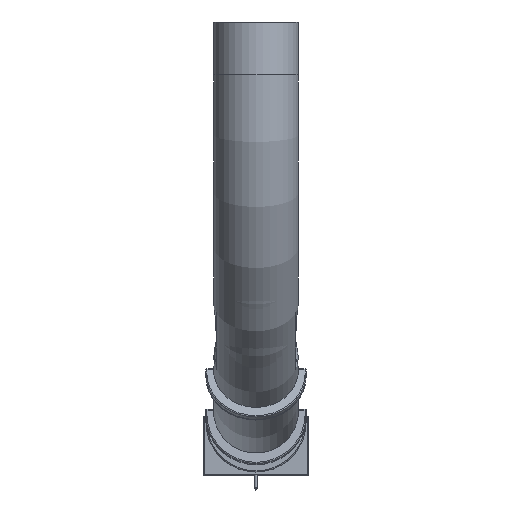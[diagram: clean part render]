
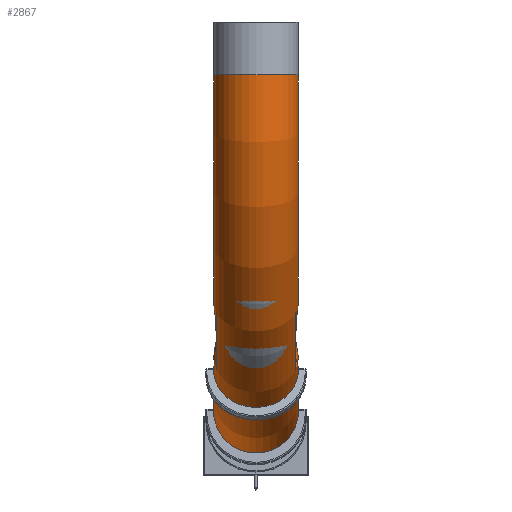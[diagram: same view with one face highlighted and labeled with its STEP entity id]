
A CAD part, top view. The second image highlights one B-rep face of the part: STEP entity #2867.
In plain terms, the highlighted toroidal (fillet/blend) face has major radius 650 mm and minor radius 80 mm.
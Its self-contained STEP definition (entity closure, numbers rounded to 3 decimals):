
#62=TOROIDAL_SURFACE('',#3220,650.,80.);
#155=B_SPLINE_CURVE_WITH_KNOTS('',3,(#4912,#4913,#4914,#4915,#4916,#4917),
 .UNSPECIFIED.,.F.,.F.,(4,2,4),(-8.412,-4.172,0.),
 .UNSPECIFIED.);
#157=B_SPLINE_CURVE_WITH_KNOTS('',3,(#4929,#4930,#4931,#4932,#4933,#4934,
#4935,#4936,#4937,#4938),.UNSPECIFIED.,.F.,.F.,(4,2,2,2,4),(71.802,
72.376,80.043,87.71,95.377),
 .UNSPECIFIED.);
#160=B_SPLINE_CURVE_WITH_KNOTS('',3,(#4998,#4999,#5000,#5001,#5002,#5003,
#5004,#5005,#5006,#5007),.UNSPECIFIED.,.F.,.F.,(4,2,2,2,4),(0.,7.667,
15.334,23.001,23.575),.UNSPECIFIED.);
#161=B_SPLINE_CURVE_WITH_KNOTS('',3,(#5010,#5011,#5012,#5013,#5014,#5015),
 .UNSPECIFIED.,.F.,.F.,(4,2,4),(-8.369,-4.192,0.),
 .UNSPECIFIED.);
#726=FACE_OUTER_BOUND('',#913,.T.);
#913=EDGE_LOOP('',(#2186,#2187,#2188,#2189,#2190,#2191,#2192,#2193,#2194,
#2195,#2196));
#1056=CIRCLE('',#3136,80.);
#1093=CIRCLE('',#3211,645.);
#1095=CIRCLE('',#3217,645.);
#1097=CIRCLE('',#3221,80.);
#1098=CIRCLE('',#3222,80.);
#1099=CIRCLE('',#3223,570.);
#1249=VERTEX_POINT('',#4547);
#1256=VERTEX_POINT('',#4564);
#1303=VERTEX_POINT('',#4905);
#1305=VERTEX_POINT('',#4911);
#1307=VERTEX_POINT('',#4927);
#1308=VERTEX_POINT('',#4928);
#1311=VERTEX_POINT('',#5009);
#1314=VERTEX_POINT('',#5032);
#1315=VERTEX_POINT('',#5033);
#1527=EDGE_CURVE('',#1249,#1256,#1056,.T.);
#1610=EDGE_CURVE('',#1303,#1249,#1093,.T.);
#1613=EDGE_CURVE('',#1305,#1303,#155,.T.);
#1616=EDGE_CURVE('',#1307,#1308,#157,.T.);
#1620=EDGE_CURVE('',#1308,#1305,#160,.T.);
#1621=EDGE_CURVE('',#1311,#1307,#161,.T.);
#1624=EDGE_CURVE('',#1256,#1311,#1095,.T.);
#1628=EDGE_CURVE('',#1314,#1315,#1097,.T.);
#1629=EDGE_CURVE('',#1315,#1314,#1098,.T.);
#1630=EDGE_CURVE('',#1315,#1308,#1099,.T.);
#2186=ORIENTED_EDGE('',*,*,#1628,.F.);
#2187=ORIENTED_EDGE('',*,*,#1629,.F.);
#2188=ORIENTED_EDGE('',*,*,#1630,.T.);
#2189=ORIENTED_EDGE('',*,*,#1620,.T.);
#2190=ORIENTED_EDGE('',*,*,#1613,.T.);
#2191=ORIENTED_EDGE('',*,*,#1610,.T.);
#2192=ORIENTED_EDGE('',*,*,#1527,.T.);
#2193=ORIENTED_EDGE('',*,*,#1624,.T.);
#2194=ORIENTED_EDGE('',*,*,#1621,.T.);
#2195=ORIENTED_EDGE('',*,*,#1616,.T.);
#2196=ORIENTED_EDGE('',*,*,#1630,.F.);
#2867=ADVANCED_FACE('',(#726),#62,.T.);
#3136=AXIS2_PLACEMENT_3D('',#4566,#3583,#3584);
#3211=AXIS2_PLACEMENT_3D('',#4906,#3767,#3768);
#3217=AXIS2_PLACEMENT_3D('',#5025,#3783,#3784);
#3220=AXIS2_PLACEMENT_3D('',#5031,#3791,#3792);
#3221=AXIS2_PLACEMENT_3D('',#5034,#3793,#3794);
#3222=AXIS2_PLACEMENT_3D('',#5035,#3795,#3796);
#3223=AXIS2_PLACEMENT_3D('',#5036,#3797,#3798);
#3583=DIRECTION('center_axis',(0.,0.,-1.));
#3584=DIRECTION('ref_axis',(-1.,0.,0.));
#3767=DIRECTION('center_axis',(-1.,0.,0.));
#3768=DIRECTION('ref_axis',(0.,-1.,0.));
#3783=DIRECTION('center_axis',(1.,0.,0.));
#3784=DIRECTION('ref_axis',(0.,-1.,0.));
#3791=DIRECTION('center_axis',(1.,0.,0.));
#3792=DIRECTION('ref_axis',(0.,0.,-1.));
#3793=DIRECTION('center_axis',(0.,1.,0.));
#3794=DIRECTION('ref_axis',(-1.,0.,0.));
#3795=DIRECTION('center_axis',(0.,1.,0.));
#3796=DIRECTION('ref_axis',(-1.,0.,0.));
#3797=DIRECTION('center_axis',(-1.,0.,0.));
#3798=DIRECTION('ref_axis',(0.,0.,-1.));
#4547=CARTESIAN_POINT('',(79.844,5.,-100.));
#4564=CARTESIAN_POINT('',(-79.844,5.,-100.));
#4566=CARTESIAN_POINT('Origin',(0.,0.,-100.));
#4905=CARTESIAN_POINT('',(79.844,91.414,-422.5));
#4906=CARTESIAN_POINT('Origin',(79.844,650.,-100.));
#4911=CARTESIAN_POINT('',(73.51,157.223,-473.674));
#4912=CARTESIAN_POINT('Ctrl Pts',(73.51,157.223,-473.674));
#4913=CARTESIAN_POINT('Ctrl Pts',(75.82,145.212,-466.74));
#4914=CARTESIAN_POINT('Ctrl Pts',(77.27,133.536,-458.896));
#4915=CARTESIAN_POINT('Ctrl Pts',(79.169,111.494,-441.737));
#4916=CARTESIAN_POINT('Ctrl Pts',(79.629,101.119,-432.459));
#4917=CARTESIAN_POINT('Ctrl Pts',(79.844,91.414,-422.5));
#4927=CARTESIAN_POINT('',(-73.51,157.223,-473.674));
#4928=CARTESIAN_POINT('',(0.,365.,-593.634));
#4929=CARTESIAN_POINT('Ctrl Pts',(-73.51,157.223,-473.674));
#4930=CARTESIAN_POINT('Ctrl Pts',(-73.178,158.946,-474.669));
#4931=CARTESIAN_POINT('Ctrl Pts',(-72.836,160.67,-475.665));
#4932=CARTESIAN_POINT('Ctrl Pts',(-67.765,185.428,-489.959));
#4933=CARTESIAN_POINT('Ctrl Pts',(-61.114,208.704,-503.397));
#4934=CARTESIAN_POINT('Ctrl Pts',(-45.582,254.91,-530.074));
#4935=CARTESIAN_POINT('Ctrl Pts',(-36.706,277.839,-543.312));
#4936=CARTESIAN_POINT('Ctrl Pts',(-18.394,322.519,-569.108));
#4937=CARTESIAN_POINT('Ctrl Pts',(-8.966,344.274,-581.668));
#4938=CARTESIAN_POINT('Ctrl Pts',(0.,365.,-593.634));
#4998=CARTESIAN_POINT('Ctrl Pts',(0.,365.,-593.634));
#4999=CARTESIAN_POINT('Ctrl Pts',(8.966,344.274,-581.668));
#5000=CARTESIAN_POINT('Ctrl Pts',(18.394,322.519,-569.108));
#5001=CARTESIAN_POINT('Ctrl Pts',(36.706,277.839,-543.312));
#5002=CARTESIAN_POINT('Ctrl Pts',(45.582,254.91,-530.074));
#5003=CARTESIAN_POINT('Ctrl Pts',(61.114,208.704,-503.397));
#5004=CARTESIAN_POINT('Ctrl Pts',(67.765,185.428,-489.959));
#5005=CARTESIAN_POINT('Ctrl Pts',(72.836,160.67,-475.665));
#5006=CARTESIAN_POINT('Ctrl Pts',(73.178,158.946,-474.669));
#5007=CARTESIAN_POINT('Ctrl Pts',(73.51,157.223,-473.674));
#5009=CARTESIAN_POINT('',(-79.844,91.414,-422.5));
#5010=CARTESIAN_POINT('Ctrl Pts',(-79.844,91.414,-422.5));
#5011=CARTESIAN_POINT('Ctrl Pts',(-79.628,101.181,-432.523));
#5012=CARTESIAN_POINT('Ctrl Pts',(-79.164,111.626,-441.855));
#5013=CARTESIAN_POINT('Ctrl Pts',(-77.251,133.682,-458.994));
#5014=CARTESIAN_POINT('Ctrl Pts',(-75.805,145.287,-466.783));
#5015=CARTESIAN_POINT('Ctrl Pts',(-73.51,157.223,-473.674));
#5025=CARTESIAN_POINT('Origin',(-79.844,650.,-100.));
#5031=CARTESIAN_POINT('Origin',(0.,650.,-100.));
#5032=CARTESIAN_POINT('',(80.,650.,-750.));
#5033=CARTESIAN_POINT('',(0.,650.,-670.));
#5034=CARTESIAN_POINT('Origin',(0.,650.,-750.));
#5035=CARTESIAN_POINT('Origin',(0.,650.,-750.));
#5036=CARTESIAN_POINT('Origin',(0.,650.,-100.));
